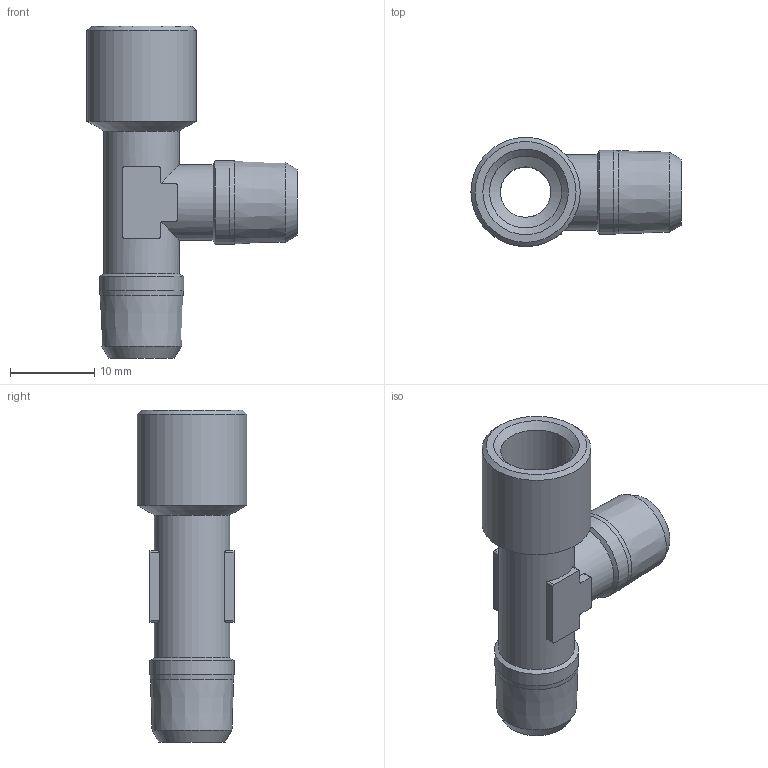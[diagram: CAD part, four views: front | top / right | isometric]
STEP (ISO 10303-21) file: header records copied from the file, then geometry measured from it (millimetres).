
FILE_DESCRIPTION(/* description */ (''),/* implementation_level */ '2;1');
FILE_NAME(/* name */ '40302_118_G18_R18_04.10.16',/* time_stamp */ '2016-10-04T09:52:25+02:00',/* author */ (''),/* organization */ (''),/* preprocessor_version */ 'ST-DEVELOPER v16.5',/* originating_system */ 'HiCAD 2016 2101.0 Build 254',/* authorisation */ '');
FILE_SCHEMA (('AUTOMOTIVE_DESIGN { 1 0 10303 214 1 1 1 1 }'));
Length unit declared in the file: millimetre
Products named in the file (2): Root; 40302
Assembly tree (1 placements, depth 2):
  Root
    40302
Bounding box: 25 x 13 x 39.5 mm (x, y, z)
Volume: 2688 mm3; surface area: 2979.3 mm2
Topology: 1 solids, 1 shells, 59 faces, 160 edges, 102 vertices
Faces by surface type: cylinder 24, plane 21, cone 14
Full cylindrical faces by diameter (mm): 6 x2, 8.566 x1, 9 x2, 10 x2, 13 x1
Entity records: 5679 total; most frequent: CARTESIAN_POINT 3038, DIRECTION 280, PRESENTATION_STYLE_ASSIGNMENT 257, COLOUR_RGB 257, DRAUGHTING_PRE_DEFINED_CURVE_FONT 256, CURVE_STYLE 256, OVER_RIDING_STYLED_ITEM 256, ORIENTED_EDGE 256
